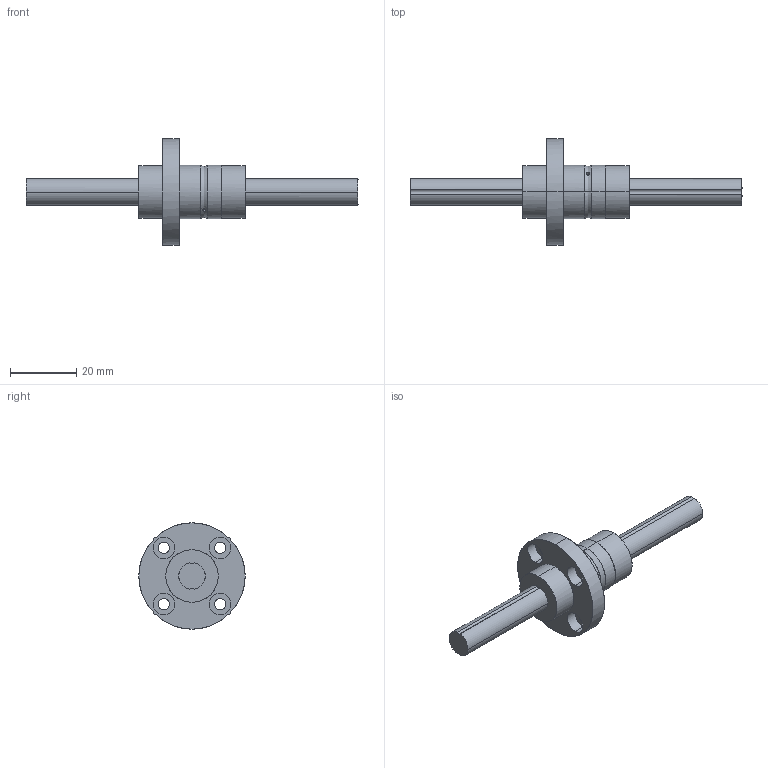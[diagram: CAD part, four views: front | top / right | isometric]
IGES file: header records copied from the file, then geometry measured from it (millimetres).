
Global section: file name: No Iges File Name specified; native system: AutoDesk Inventor R11.0; preprocessor: AutoDesk Inventor Iges Exporter R11.0; author: No Author specified; organization: No Organization specified; date: 20150223.133036; units: millimetre
Bounding box: 100 x 32 x 32 mm (x, y, z)
Surface area: 7114.4 mm2 (no closed solid volume)
Topology: 0 solids, 0 shells, 54 faces, 382 edges, 382 vertices
Faces by surface type: bspline 54
